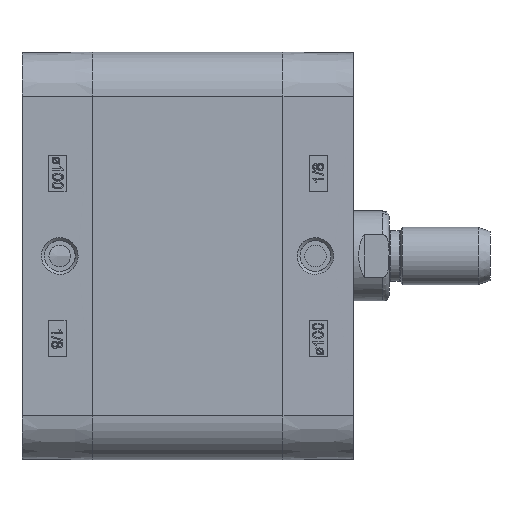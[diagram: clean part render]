
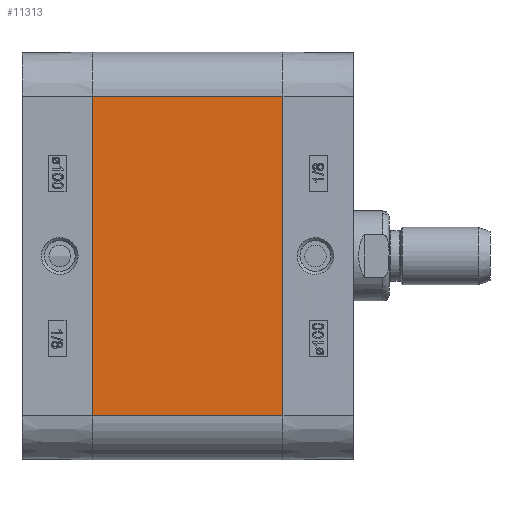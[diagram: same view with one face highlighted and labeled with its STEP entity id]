
A CAD part, left-side view. The second image highlights one B-rep face of the part: STEP entity #11313.
In plain terms, the highlighted planar face has unit normal (-1, 0, 0).
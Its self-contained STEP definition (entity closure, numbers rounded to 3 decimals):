
#5678=CARTESIAN_POINT('',(-56.65,-53.,44.4));
#5679=VERTEX_POINT('',#5678);
#5686=CARTESIAN_POINT('',(-56.65,-53.,-44.4));
#5687=VERTEX_POINT('',#5686);
#5688=CARTESIAN_POINT('',(-56.65,-53.,-44.4));
#5689=DIRECTION('',(0.0,0.0,1.0));
#5690=VECTOR('',#5689,88.8);
#5691=LINE('',#5688,#5690);
#5692=EDGE_CURVE('',#5687,#5679,#5691,.T.);
#11271=CARTESIAN_POINT('',(-56.65,0.0,-44.4));
#11272=VERTEX_POINT('',#11271);
#11273=CARTESIAN_POINT('',(-56.65,0.0,-44.4));
#11274=DIRECTION('',(0.0,-1.0,0.0));
#11275=VECTOR('',#11274,53.);
#11276=LINE('',#11273,#11275);
#11277=EDGE_CURVE('',#11272,#5687,#11276,.T.);
#11290=CARTESIAN_POINT('',(-56.65,0.0,-44.4));
#11291=DIRECTION('',(-1.0,0.0,0.0));
#11292=DIRECTION('',(0.0,0.0,1.0));
#11293=AXIS2_PLACEMENT_3D('',#11290,#11291,#11292);
#11294=PLANE('',#11293);
#11295=ORIENTED_EDGE('',*,*,#5692,.T.);
#11296=CARTESIAN_POINT('',(-56.65,0.0,44.4));
#11297=VERTEX_POINT('',#11296);
#11298=CARTESIAN_POINT('',(-56.65,0.0,44.4));
#11299=DIRECTION('',(0.0,-1.0,0.0));
#11300=VECTOR('',#11299,53.);
#11301=LINE('',#11298,#11300);
#11302=EDGE_CURVE('',#11297,#5679,#11301,.T.);
#11303=ORIENTED_EDGE('',*,*,#11302,.F.);
#11304=CARTESIAN_POINT('',(-56.65,0.0,-44.4));
#11305=DIRECTION('',(0.0,0.0,1.0));
#11306=VECTOR('',#11305,88.8);
#11307=LINE('',#11304,#11306);
#11308=EDGE_CURVE('',#11272,#11297,#11307,.T.);
#11309=ORIENTED_EDGE('',*,*,#11308,.F.);
#11310=ORIENTED_EDGE('',*,*,#11277,.T.);
#11311=EDGE_LOOP('',(#11295,#11303,#11309,#11310));
#11312=FACE_OUTER_BOUND('',#11311,.T.);
#11313=ADVANCED_FACE('',(#11312),#11294,.T.);
